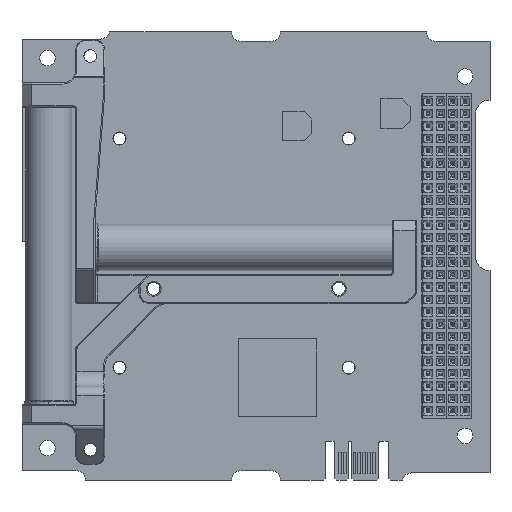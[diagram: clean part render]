
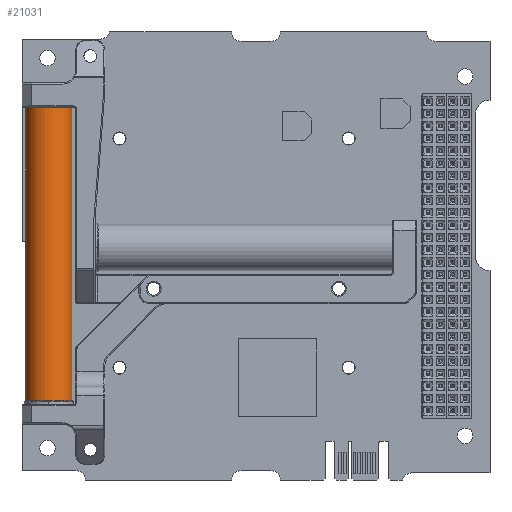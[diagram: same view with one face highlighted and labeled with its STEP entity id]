
A CAD part, top view. The second image highlights one B-rep face of the part: STEP entity #21031.
In plain terms, the highlighted cylindrical face has radius 4.75 mm (diameter 9.5 mm), a partial arc.
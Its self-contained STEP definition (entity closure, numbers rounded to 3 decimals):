
#6556=CARTESIAN_POINT('',(5.5,-15.2,7.1));
#6557=DIRECTION('',(0.,1.,0.));
#6558=DIRECTION('',(-1.,0.,0.));
#6559=AXIS2_PLACEMENT_3D('',#6556,#6557,#6558);
#6561=DIRECTION('',(0.,1.,0.));
#6562=VECTOR('',#6561,60.5);
#6563=CARTESIAN_POINT('',(10.25,-75.7,7.1));
#6564=LINE('',#6563,#6562);
#6580=CARTESIAN_POINT('',(5.5,-75.7,7.1));
#6581=DIRECTION('',(0.,1.,0.));
#6582=DIRECTION('',(-1.,0.,0.));
#6583=AXIS2_PLACEMENT_3D('',#6580,#6581,#6582);
#6690=DIRECTION('',(0.,1.,0.));
#6691=VECTOR('',#6690,60.5);
#6692=CARTESIAN_POINT('',(0.75,-75.7,7.1));
#6693=LINE('',#6692,#6691);
#11012=CARTESIAN_POINT('',(10.25,-75.7,7.1));
#11013=CARTESIAN_POINT('',(0.75,-75.7,7.1));
#11014=VERTEX_POINT('',#11012);
#11015=VERTEX_POINT('',#11013);
#11016=CARTESIAN_POINT('',(10.25,-15.2,7.1));
#11017=CARTESIAN_POINT('',(0.75,-15.2,7.1));
#11018=VERTEX_POINT('',#11016);
#11019=VERTEX_POINT('',#11017);
#21020=CARTESIAN_POINT('',(5.5,-75.7,7.1));
#21021=DIRECTION('',(0.,1.,0.));
#21022=DIRECTION('',(1.,0.,0.));
#21023=AXIS2_PLACEMENT_3D('',#21020,#21021,#21022);
#21024=CYLINDRICAL_SURFACE('',#21023,4.75);
#21025=ORIENTED_EDGE('',*,*,#20734,.F.);
#21026=ORIENTED_EDGE('',*,*,#20710,.T.);
#21027=ORIENTED_EDGE('',*,*,#20688,.T.);
#21028=ORIENTED_EDGE('',*,*,#20707,.F.);
#21029=EDGE_LOOP('',(#21025,#21026,#21027,#21028));
#21030=FACE_OUTER_BOUND('',#21029,.F.);
#6560=CIRCLE('',#6559,4.75);
#6584=CIRCLE('',#6583,4.75);
#20688=EDGE_CURVE('',#11019,#11018,#6560,.T.);
#20707=EDGE_CURVE('',#11014,#11018,#6564,.T.);
#20710=EDGE_CURVE('',#11015,#11019,#6693,.T.);
#20734=EDGE_CURVE('',#11015,#11014,#6584,.T.);
#21031=ADVANCED_FACE('',(#21030),#21024,.T.);
